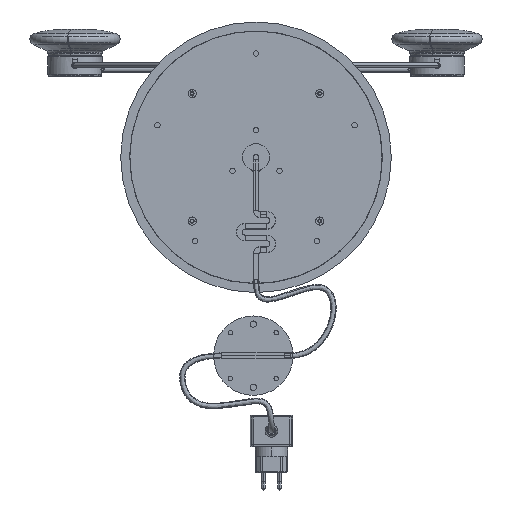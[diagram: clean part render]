
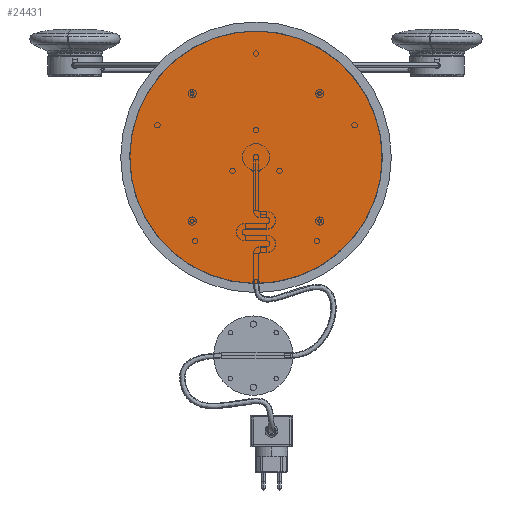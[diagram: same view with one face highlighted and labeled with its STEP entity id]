
A CAD part, front view. The second image highlights one B-rep face of the part: STEP entity #24431.
In plain terms, the highlighted planar face has unit normal (0, -1, 0).
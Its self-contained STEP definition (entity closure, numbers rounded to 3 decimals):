
#4317 = CARTESIAN_POINT ( 'NONE',  ( 0., 0., 0. ) ) ;
#5395 = CIRCLE ( 'NONE', #29537, 140. ) ;
#6942 = DIRECTION ( 'NONE',  ( 0., 1., 0. ) ) ;
#7012 = DIRECTION ( 'NONE',  ( 0., 1., 0. ) ) ;
#7163 = DIRECTION ( 'NONE',  ( 0., 0., 1. ) ) ;
#9219 = PLANE ( 'NONE',  #26687 ) ;
#10774 = DIRECTION ( 'NONE',  ( 0., 1., 0. ) ) ;
#11112 = CARTESIAN_POINT ( 'NONE',  ( 0., 0., -140. ) ) ;
#11720 = CIRCLE ( 'NONE', #12642, 140. ) ;
#12111 = CARTESIAN_POINT ( 'NONE',  ( 0., 0., 140. ) ) ;
#12642 = AXIS2_PLACEMENT_3D ( 'NONE', #4317, #7012, #7163 ) ;
#14398 = VERTEX_POINT ( 'NONE', #12111 ) ;
#15187 = CARTESIAN_POINT ( 'NONE',  ( 0., 0., 0. ) ) ;
#19309 = VERTEX_POINT ( 'NONE', #11112 ) ;
#20716 = FACE_OUTER_BOUND ( 'NONE', #28408, .T. ) ;
#23831 = ORIENTED_EDGE ( 'NONE', *, *, #26268, .F. ) ;
#24431 = ADVANCED_FACE ( 'NONE', ( #20716 ), #9219, .F. ) ;
#24671 = DIRECTION ( 'NONE',  ( 0., 0., 1. ) ) ;
#25378 = DIRECTION ( 'NONE',  ( 0., 0., 1. ) ) ;
#26268 = EDGE_CURVE ( 'NONE', #19309, #14398, #11720, .T. ) ;
#26687 = AXIS2_PLACEMENT_3D ( 'NONE', #27666, #6942, #25378 ) ;
#26708 = EDGE_CURVE ( 'NONE', #14398, #19309, #5395, .T. ) ;
#27666 = CARTESIAN_POINT ( 'NONE',  ( 0., 0., 0. ) ) ;
#28066 = ORIENTED_EDGE ( 'NONE', *, *, #26708, .F. ) ;
#28408 = EDGE_LOOP ( 'NONE', ( #23831, #28066 ) ) ;
#29537 = AXIS2_PLACEMENT_3D ( 'NONE', #15187, #10774, #24671 ) ;
